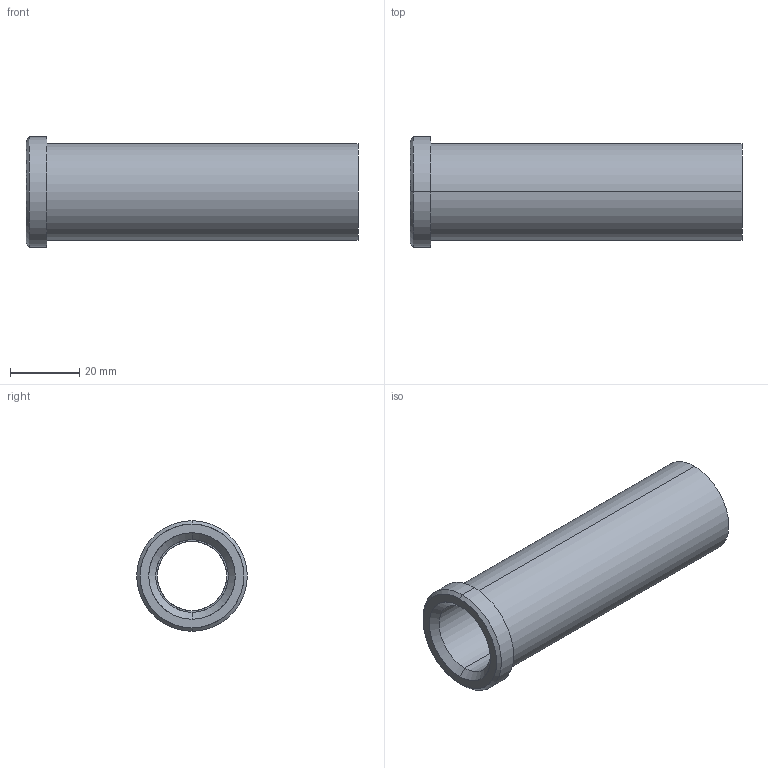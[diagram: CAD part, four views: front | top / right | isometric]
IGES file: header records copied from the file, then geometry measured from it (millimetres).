
Start section: START RECORD GO HERE.
Global section: file name: 353-20X96.igs; native system: DASSAULT SYSTEMES CATIA V5 R20 - www.3ds.com; preprocessor: CATIA Version 5 Release 20 ; author: Utente; organization: NB04-ASUS; date: 20210508.105324; units: millimetre
Bounding box: 96 x 32 x 32 mm (x, y, z)
Surface area: 15536.2 mm2 (no closed solid volume)
Topology: 0 solids, 0 shells, 18 faces, 116 edges, 116 vertices
Faces by surface type: revolution 14, plane 4
